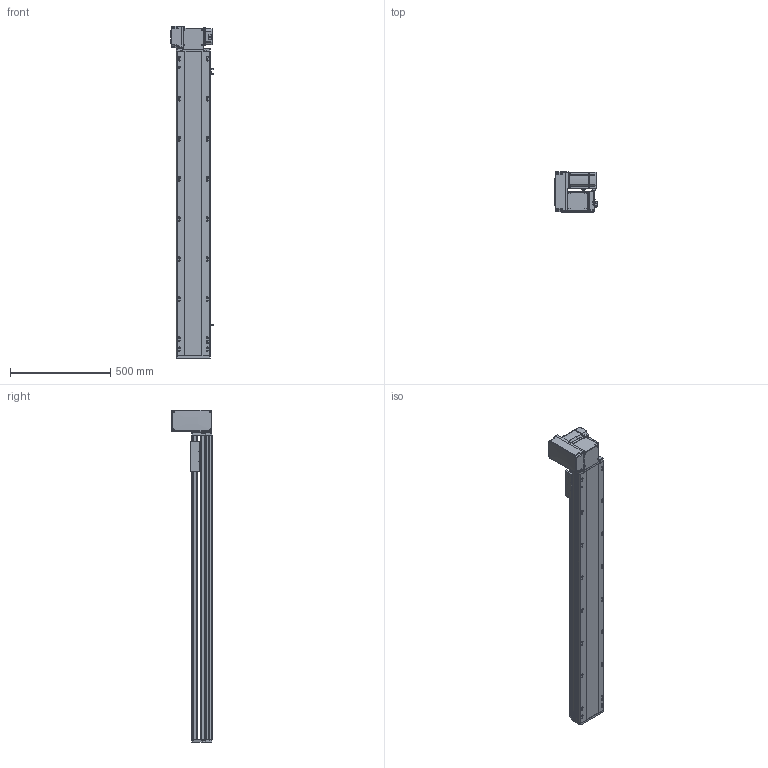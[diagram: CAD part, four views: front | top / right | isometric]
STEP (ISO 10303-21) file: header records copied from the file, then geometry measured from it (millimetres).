
FILE_DESCRIPTION (( 'STEP AP214' ), '1' );
FILE_NAME ('RTB17S-XX-1250-LW-M75-C4.STEP', '2025-12-12T01:05:21', ( '' ), ( '' ), 'SwSTEP 2.0', 'SolidWorks 2018', '' );
FILE_SCHEMA (( 'AUTOMOTIVE_DESIGN' ));
Length unit declared in the file: millimetre
Products named in the file (15): RTH13-BL-012覜茼え俋离^RTB17S-賑釱_RTB17S-XX-XX-LW-M75-C4; RTB17-R-011菁釱^RTB17S-XX-XX-LW-M75-C4; RTB17S-L-007奻裔^RTB17S-XX-XX-LW-M75-C4; RTB17S-L-004-賑釱^RTB17S-賑釱_RTB17S-XX-XX-LW-M75-C4; RTB22S-GY-005P^RTB17S-LW-々湍釱蚾饜-750W_RTB17S-XX-XX-LW-M75-C4; RTB17S-XX-1250-LW-M75-C4; 750W萇儂^RTB17S-XX-XX-LW-M75-C4; RTB17S-L-001-耜醱啣^RTB17S-XX-XX-LW-M75-C4; RTB17S-LW-々湍釱蚾饜-750W^RTB17S-XX-XX-LW-M75-C4; RTB22S-GY-018P^RTB17S-LW-々湍釱蚾饜-750W_RTB17S-XX-XX-LW-M75-C4; RTB22S-GY-008-M75--萇儂啣^RTB17S-LW-々湍釱蚾饜-750W_RTB17S-XX-XX-LW-M75-C4; RTB17S-賑釱^RTB17S-XX-XX-LW-M75-C4; RTB22S-GY-017P^RTB17S-LW-々湍釱蚾饜-750W_RTB17S-XX-XX-LW-M75-C4; RTB17S-L-014-T20-P75--々湍釱^RTB17S-LW-々湍釱蚾饜-750W_RTB17S-XX-XX-LW-M75-C4; EE672^RTB17S-XX-XX-LW-M75-C4
Assembly tree (17 placements, depth 3):
  RTB17S-XX-1250-LW-M75-C4
    RTB17-R-011菁釱^RTB17S-XX-XX-LW-M75-C4
    EE672^RTB17S-XX-XX-LW-M75-C4  x3
    RTB17S-L-001-耜醱啣^RTB17S-XX-XX-LW-M75-C4
    RTB17S-賑釱^RTB17S-XX-XX-LW-M75-C4
      RTB17S-L-004-賑釱^RTB17S-賑釱_RTB17S-XX-XX-LW-M75-C4
      RTH13-BL-012覜茼え俋离^RTB17S-賑釱_RTB17S-XX-XX-LW-M75-C4
    RTB17S-L-007奻裔^RTB17S-XX-XX-LW-M75-C4
    750W萇儂^RTB17S-XX-XX-LW-M75-C4
    RTB17S-LW-々湍釱蚾饜-750W^RTB17S-XX-XX-LW-M75-C4
      RTB17S-L-014-T20-P75--々湍釱^RTB17S-LW-々湍釱蚾饜-750W_RTB17S-XX-XX-LW-M75-C4
      RTB22S-GY-005P^RTB17S-LW-々湍釱蚾饜-750W_RTB17S-XX-XX-LW-M75-C4
      RTB22S-GY-017P^RTB17S-LW-々湍釱蚾饜-750W_RTB17S-XX-XX-LW-M75-C4  x2
      RTB22S-GY-008-M75--萇儂啣^RTB17S-LW-々湍釱蚾饜-750W_RTB17S-XX-XX-LW-M75-C4
      RTB22S-GY-018P^RTB17S-LW-々湍釱蚾饜-750W_RTB17S-XX-XX-LW-M75-C4
Bounding box: 210.4 x 201.5 x 1657.5 mm (x, y, z)
Volume: 13758686.6 mm3; surface area: 2379800 mm2
Topology: 17 solids, 17 shells, 2121 faces, 5890 edges, 3806 vertices
Faces by surface type: plane 974, cylinder 731, bspline 294, cone 110, sphere 8, torus 4
Entity records: 59638 total; most frequent: CARTESIAN_POINT 17554, ORIENTED_EDGE 8624, DIRECTION 8042, EDGE_CURVE 4312, AXIS2_PLACEMENT_3D 2826, VERTEX_POINT 2810, LINE 2390, VECTOR 2390
